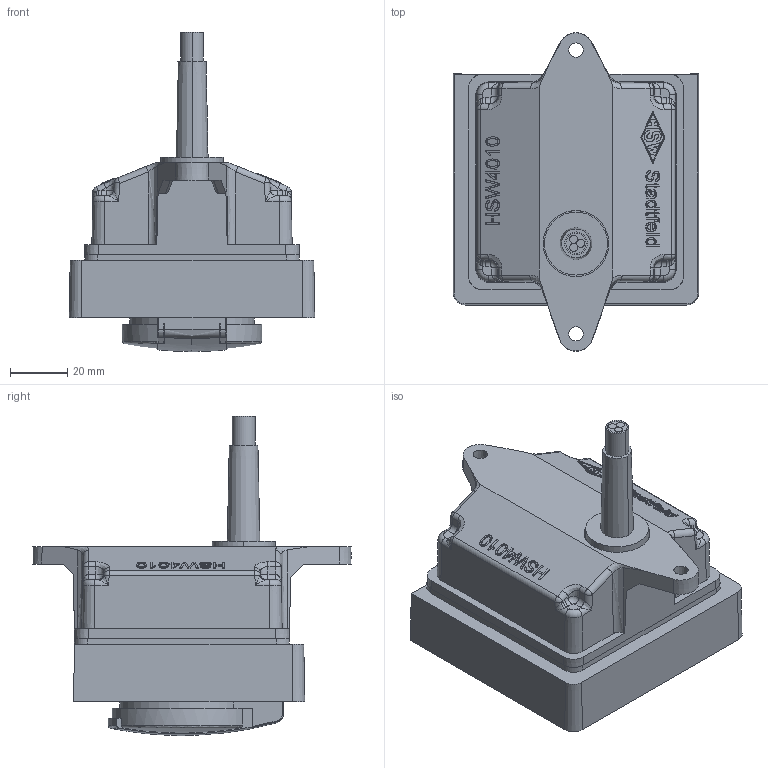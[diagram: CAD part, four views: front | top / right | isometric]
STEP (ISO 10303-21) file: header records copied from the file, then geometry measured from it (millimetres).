
FILE_DESCRIPTION (( 'STEP AP203' ), '1' );
FILE_NAME ('3D - HSW4011 Außenkontur.STEP', '2019-07-25T07:49:18', ( '' ), ( '' ), 'SwSTEP 2.0', 'SolidWorks 2013', '' );
FILE_SCHEMA (( 'CONFIG_CONTROL_DESIGN' ));
Length unit declared in the file: millimetre
Products named in the file (1): 3D - HSW4011 Außenkontur
Bounding box: 85.7 x 111.17 x 111.35 mm (x, y, z)
Surface area: 44934.6 mm2 (no closed solid volume)
Topology: 0 solids, 15 shells, 554 faces, 1816 edges, 1221 vertices
Faces by surface type: plane 226, bspline 142, cylinder 91, cone 44, torus 35, sphere 16
Entity records: 27277 total; most frequent: CARTESIAN_POINT 12739, ORIENTED_EDGE 3112, DIRECTION 2529, EDGE_CURVE 1802, VERTEX_POINT 1221, VECTOR 919, LINE 919, AXIS2_PLACEMENT_3D 805
